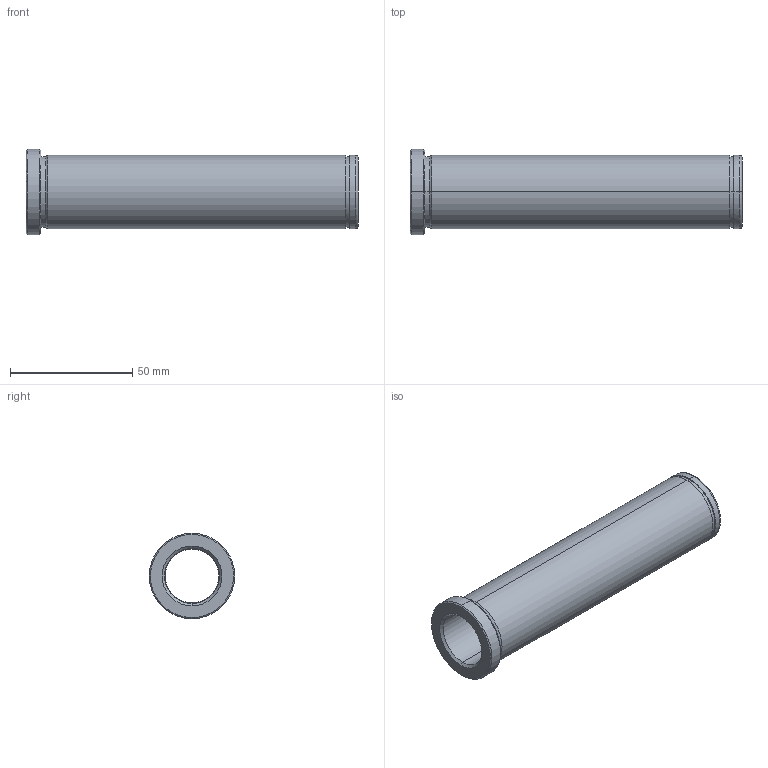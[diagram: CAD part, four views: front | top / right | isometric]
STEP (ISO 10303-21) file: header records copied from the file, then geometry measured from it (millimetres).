
FILE_DESCRIPTION(('CATIA V5 STEP Exchange'),'2;1');
FILE_NAME('C:\Users\Utente\Desktop\IO LAVORO\3D X SITO CF\X SITO\PLASTICA\553\553-22X136.stp','2021-05-25T18:15:20+00:00',('none'),('none'),'CATIA Version 5 Release 20 GA (IN-10)','CATIA V5 STEP AP203','none');
FILE_SCHEMA(('CONFIG_CONTROL_DESIGN'));
Length unit declared in the file: millimetre
Products named in the file (1): 553-22X136
Bounding box: 136 x 35 x 35 mm (x, y, z)
Volume: 44612.6 mm3; surface area: 23519 mm2
Topology: 1 solids, 1 shells, 32 faces, 102 edges, 76 vertices
Faces by surface type: cylinder 14, cone 8, plane 6, torus 4
Entity records: 1334 total; most frequent: CARTESIAN_POINT 389, ORIENTED_EDGE 204, DIRECTION 152, EDGE_CURVE 102, AXIS2_PLACEMENT_3D 99, VERTEX_POINT 76, CIRCLE 66, EDGE_LOOP 38
